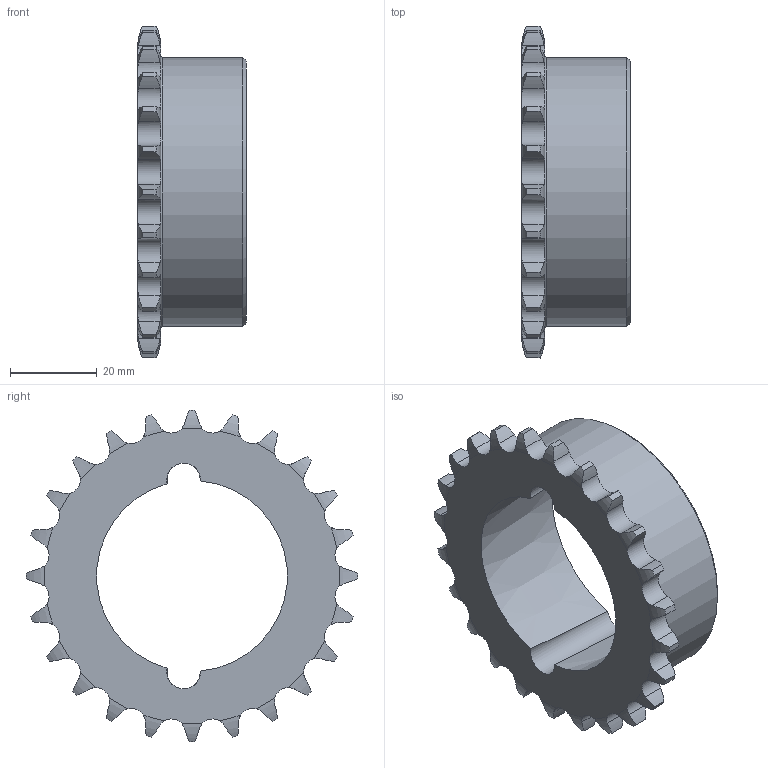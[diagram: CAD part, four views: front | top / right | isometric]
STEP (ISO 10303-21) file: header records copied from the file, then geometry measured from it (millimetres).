
FILE_DESCRIPTION(/* description */ (''),/* implementation_level */ '2;1');
FILE_NAME(/* name */ 'C:\Users\stagistaCAD\Desktop\17109024.stp',/* time_stamp */ '2018-06-18T08:36:07+02:00',/* author */ ('stagistacad'),/* organization */ (''),/* preprocessor_version */ 'ST-DEVELOPER v15.6',/* originating_system */ 'Autodesk Inventor 2015',/* authorisation */ '');
FILE_SCHEMA (('AUTOMOTIVE_DESIGN { 1 0 10303 214 3 1 1 }'));
Length unit declared in the file: millimetre
Products named in the file (1): 17109024
Bounding box: 25 x 76.62 x 76.62 mm (x, y, z)
Volume: 37191.6 mm3; surface area: 13698.3 mm2
Topology: 1 solids, 1 shells, 156 faces, 457 edges, 304 vertices
Faces by surface type: cylinder 100, torus 49, cone 4, plane 3
Full cylindrical faces by diameter (mm): 62 x1
Entity records: 5802 total; most frequent: CARTESIAN_POINT 1878, ORIENTED_EDGE 908, DIRECTION 728, EDGE_CURVE 454, AXIS2_PLACEMENT_3D 316, VERTEX_POINT 304, B_SPLINE_CURVE_WITH_KNOTS 199, EDGE_LOOP 162
